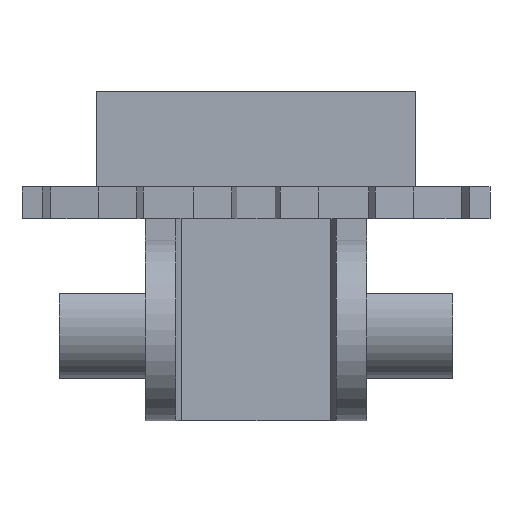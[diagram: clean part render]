
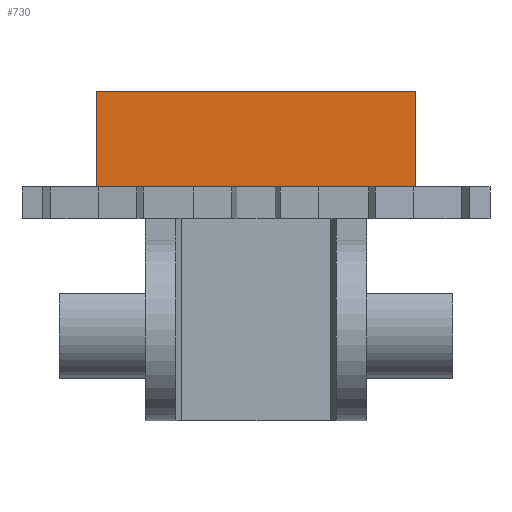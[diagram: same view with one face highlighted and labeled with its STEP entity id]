
A CAD part, left-side view. The second image highlights one B-rep face of the part: STEP entity #730.
In plain terms, the highlighted planar face has unit normal (-1, 0, 0).
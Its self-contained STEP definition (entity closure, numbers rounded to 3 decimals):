
#706 = ORIENTED_EDGE ( 'NONE', *, *, #709, .T. ) ;
#709 = EDGE_CURVE ( 'NONE', #3107, #3029, #1754, .T. ) ;
#729 = ORIENTED_EDGE ( 'NONE', *, *, #3021, .T. ) ;
#730 = ADVANCED_FACE ( 'NONE', ( #1860 ), #1853, .F. ) ;
#731 = EDGE_LOOP ( 'NONE', ( #729, #3065, #3063, #706 ) ) ;
#1754 = LINE ( 'NONE', #1772, #1824 ) ;
#1772 = CARTESIAN_POINT ( 'NONE',  ( -5.049, 14.723, 45.1 ) ) ;
#1823 = DIRECTION ( 'NONE',  ( 0., 0., -1. ) ) ;
#1824 = VECTOR ( 'NONE', #1823, 1000. ) ;
#1831 = CARTESIAN_POINT ( 'NONE',  ( -5.049, 14.723, 36.1 ) ) ;
#1832 = DIRECTION ( 'NONE',  ( 0., 1., 0. ) ) ;
#1836 = AXIS2_PLACEMENT_3D ( 'NONE', #1850, #1849, #1832 ) ;
#1849 = DIRECTION ( 'NONE',  ( 1., 0., 0. ) ) ;
#1850 = CARTESIAN_POINT ( 'NONE',  ( -5.049, -15.277, 45.1 ) ) ;
#1853 = PLANE ( 'NONE',  #1836 ) ;
#1860 = FACE_OUTER_BOUND ( 'NONE', #731, .T. ) ;
#2099 = CARTESIAN_POINT ( 'NONE',  ( -5.049, -15.277, 36.1 ) ) ;
#2109 = DIRECTION ( 'NONE',  ( 0., -1., 0. ) ) ;
#2121 = LINE ( 'NONE', #2132, #2138 ) ;
#2132 = CARTESIAN_POINT ( 'NONE',  ( -5.049, -15.277, 36.1 ) ) ;
#2138 = VECTOR ( 'NONE', #2109, 1000. ) ;
#2334 = VECTOR ( 'NONE', #2340, 1000. ) ;
#2340 = DIRECTION ( 'NONE',  ( 0., 0., -1. ) ) ;
#2342 = CARTESIAN_POINT ( 'NONE',  ( -5.049, -15.277, 45.1 ) ) ;
#2352 = LINE ( 'NONE', #2342, #2334 ) ;
#2446 = DIRECTION ( 'NONE',  ( 0., -1., 0. ) ) ;
#2447 = VECTOR ( 'NONE', #2446, 1000. ) ;
#2448 = CARTESIAN_POINT ( 'NONE',  ( -5.049, -15.277, 45.1 ) ) ;
#2449 = LINE ( 'NONE', #2448, #2447 ) ;
#2474 = CARTESIAN_POINT ( 'NONE',  ( -5.049, 14.723, 45.1 ) ) ;
#2588 = CARTESIAN_POINT ( 'NONE',  ( -5.049, -15.277, 45.1 ) ) ;
#3002 = VERTEX_POINT ( 'NONE', #2099 ) ;
#3021 = EDGE_CURVE ( 'NONE', #3029, #3002, #2121, .T. ) ;
#3029 = VERTEX_POINT ( 'NONE', #1831 ) ;
#3042 = EDGE_CURVE ( 'NONE', #3103, #3002, #2352, .T. ) ;
#3044 = EDGE_CURVE ( 'NONE', #3107, #3103, #2449, .T. ) ;
#3063 = ORIENTED_EDGE ( 'NONE', *, *, #3044, .F. ) ;
#3065 = ORIENTED_EDGE ( 'NONE', *, *, #3042, .F. ) ;
#3103 = VERTEX_POINT ( 'NONE', #2588 ) ;
#3107 = VERTEX_POINT ( 'NONE', #2474 ) ;
